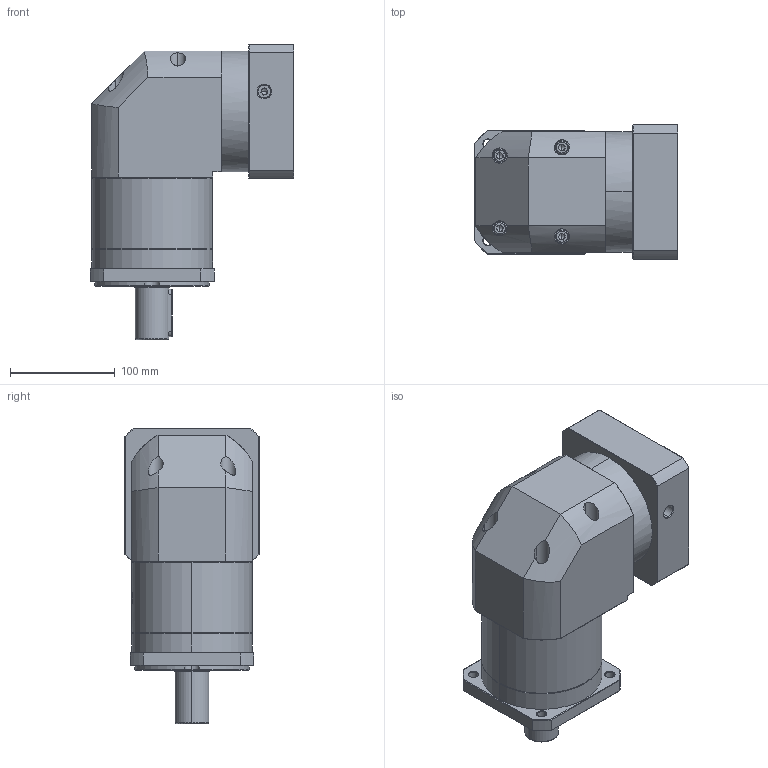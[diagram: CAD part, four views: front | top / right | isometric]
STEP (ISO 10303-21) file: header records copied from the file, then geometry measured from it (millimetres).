
FILE_DESCRIPTION (( 'STEP AP214' ), '1' );
FILE_NAME ('ZFR120A-D32-L2-P2-19-110-145-M8.step', '2023-08-27T08:08:26', ( '' ), ( '' ), 'SwSTEP 2.0', 'SolidWorks 2016', '' );
FILE_SCHEMA (( 'AUTOMOTIVE_DESIGN' ));
Length unit declared in the file: millimetre
Products named in the file (1): ZFR120A-D32-L2-P2-19-110-145-M8
Bounding box: 193.9 x 128 x 281.5 mm (x, y, z)
Volume: 3291225.2 mm3; surface area: 262635 mm2
Topology: 6 solids, 6 shells, 2265 faces, 5968 edges, 3808 vertices
Faces by surface type: plane 1061, cylinder 434, bspline 425, cone 337, torus 8
Entity records: 124369 total; most frequent: CARTESIAN_POINT 49043, ORIENTED_EDGE 11876, DIRECTION 8604, EDGE_CURVE 5938, VERTEX_POINT 3808, LINE 3158, VECTOR 3158, AXIS2_PLACEMENT_3D 2723
